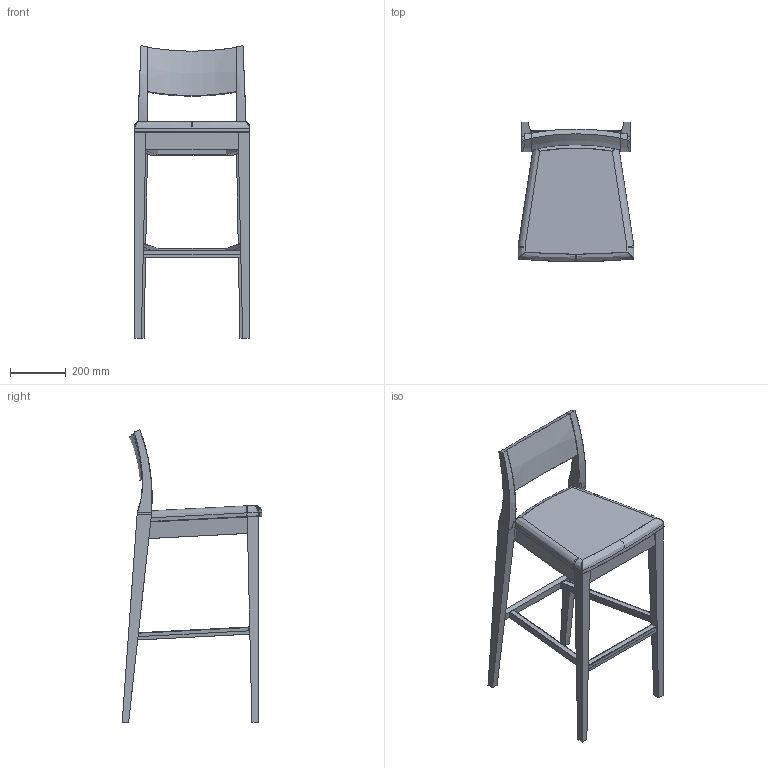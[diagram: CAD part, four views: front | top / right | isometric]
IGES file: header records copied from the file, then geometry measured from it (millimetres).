
Start section: SolidWorks IGES file using analytic representation for surfaces
Global section: file name: C:\Users\Adao\Documents\Trab Adao\Desenho técnico PRODUÇÃO\J M S\ELIE\ELIE (3D)\BANCO (3D)\Banco ELIE M-64.IGS; native system: SolidWorks 2012; preprocessor: SolidWorks 2012; author: Adao; date: 121219.130341; units: millimetre
Bounding box: 416 x 501.15 x 1050.34 mm (x, y, z)
Surface area: 1458193.4 mm2 (no closed solid volume)
Topology: 0 solids, 0 shells, 175 faces, 1451 edges, 1447 vertices
Faces by surface type: bspline 140, revolution 35
